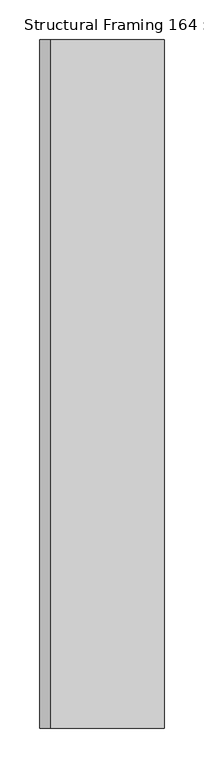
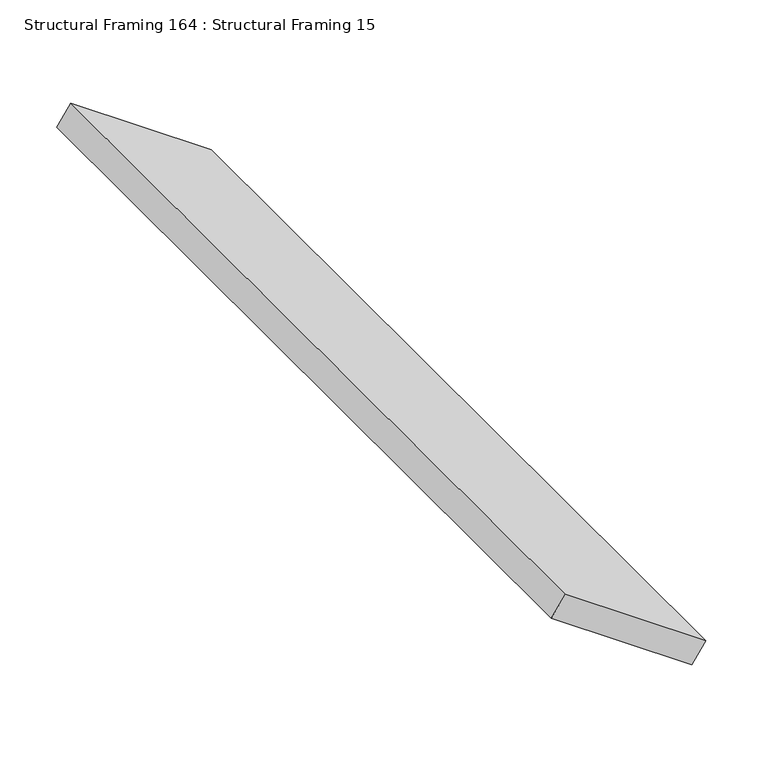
"""IFC4 building model written with IfcOpenShell, lengths in millimetres: beam geometry, Structural Framing 164 : Structural Framing 15."""

from ifc_helpers import new_model, si_unit, frame, origin, place, context, project, spatial, polyline, outline, extrude, source, transform, mapped, element, save


def structural_framing_164_structural_framing_15_c8a2bcaa(model_context):
    return source(origin(), model_context, "Body", "SweptSolid", [
        extrude(outline(polyline([(0.0, -174.3446795), (0.0, 0.0), (870.0, 0.0), (870.0, -174.3446795), (0.0, -174.3446795)])), frame((1349.5937079, 3925.5508021, 2700.0), z_axis=(0.5735764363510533, 0.0, 0.8191520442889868), x_axis=(0.0, -1.0, 0.0)), (0.0, 0.0, 1.0), 25.0),
    ])


if __name__ == "__main__":
    model = new_model("IFC4")
    model_context = context("Model", 3, world=origin())
    ifc_project = project(units=[si_unit("LENGTHUNIT", "METRE", prefix="MILLI")], contexts=[model_context])
    site = spatial("IfcSite", under=ifc_project)
    building = spatial("IfcBuilding", under=site)
    placement = place(None, origin())
    structural_framing_164_structural_framing_15_shape = structural_framing_164_structural_framing_15_c8a2bcaa(model_context)
    element("IfcBeam", 1, ObjectType="Structural Framing 164 : Structural Framing 15", at=placement, inside=building, context=model_context, shape_type="MappedRepresentation", body=[
        mapped(structural_framing_164_structural_framing_15_shape, transform((0.0, 0.0, 0.0), x_axis=(1.0, 0.0, 0.0), y_axis=(0.0, 1.0, 0.0), z_axis=(0.0, 0.0, 1.0))),
    ])
    save(model, "model.ifc")
